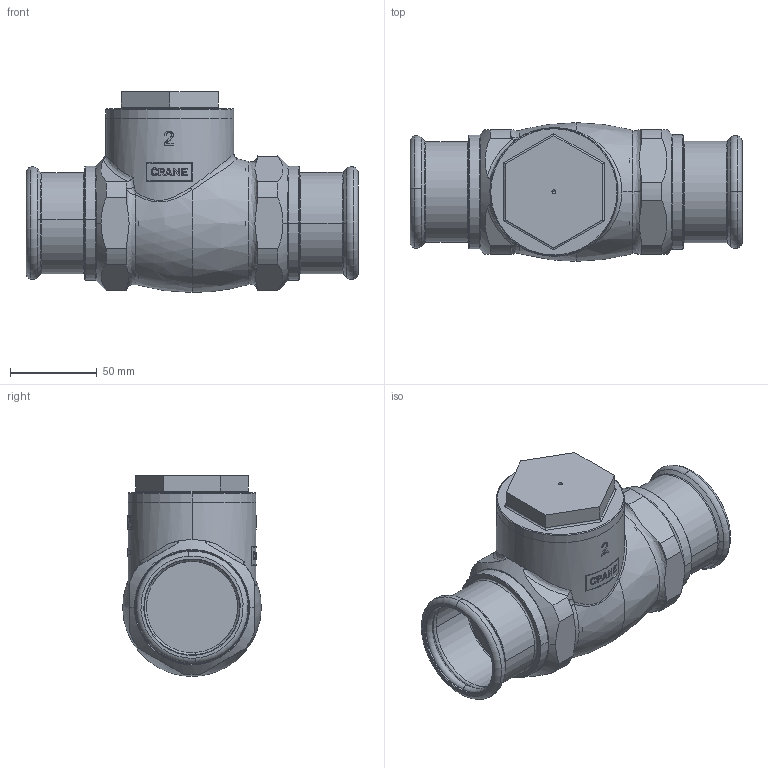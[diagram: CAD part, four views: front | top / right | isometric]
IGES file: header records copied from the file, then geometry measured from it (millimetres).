
Global section: file name: No Iges File Name specified; native system: AutoDesk Inventor R12.0; preprocessor: AutoDesk Inventor Iges Exporter R12.0; date: 20110823.124752; units: millimetre
Bounding box: 191.5 x 79.98 x 115.9 mm (x, y, z)
Volume: 574978.9 mm3; surface area: 107132.8 mm2
Topology: 1 solids, 4 shells, 514 faces, 1379 edges, 909 vertices
Faces by surface type: bspline 233, plane 145, revolution 47, cylinder 43, cone 28, torus 18
